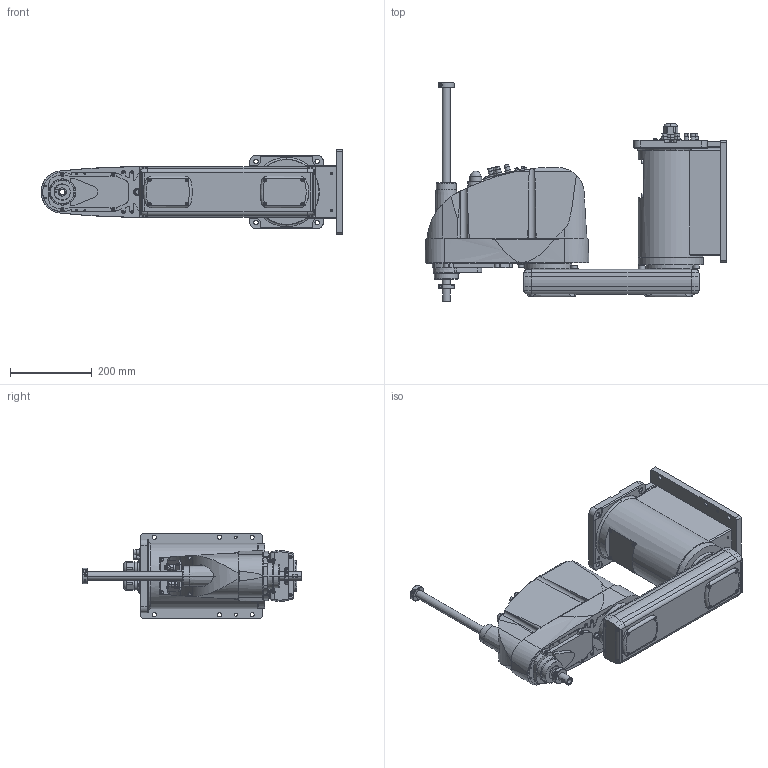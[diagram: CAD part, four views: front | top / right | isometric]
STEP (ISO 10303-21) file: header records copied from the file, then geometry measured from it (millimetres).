
FILE_DESCRIPTION( ( '' ), '1' );
FILE_NAME( '//expscmdclustefs.cadenas.external/client_exchange/iodir/jobs/output/wkb51541931_no0/STEP/G6_553SW_2_03.stp', '2012-11-23T11:18:20', ( '' ), ( '' ), ' ', ' ', ' ' );
FILE_SCHEMA( ( 'CONFIG_CONTROL_DESIGN' ) );
Length unit declared in the file: millimetre
Products named in the file (4): 1; 2; 3; 4
Bounding box: 740 x 535 x 210 mm (x, y, z)
Volume: 21125709.6 mm3; surface area: 955879.2 mm2
Topology: 4 solids, 4 shells, 1642 faces, 4038 edges, 2592 vertices
Faces by surface type: plane 844, cylinder 564, cone 202, torus 31, sphere 1
Entity records: 51594 total; most frequent: CARTESIAN_POINT 11769, DIRECTION 8484, ORIENTED_EDGE 8024, EDGE_CURVE 4012, AXIS2_PLACEMENT_3D 3027, VERTEX_POINT 2592, LINE 2430, VECTOR 2430
